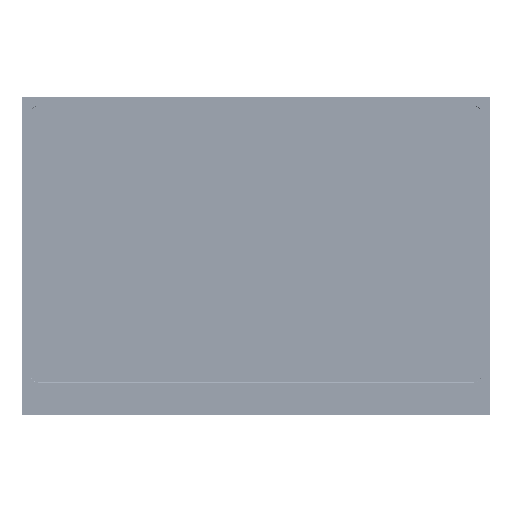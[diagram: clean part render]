
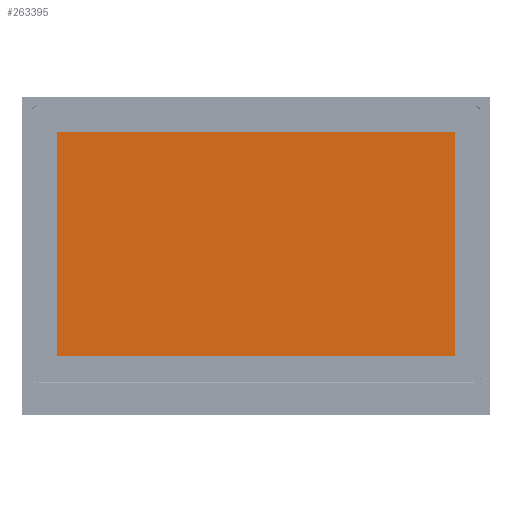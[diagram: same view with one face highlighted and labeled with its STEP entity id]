
A CAD part, top view. The second image highlights one B-rep face of the part: STEP entity #263395.
In plain terms, the highlighted planar face has unit normal (0, 0, 1).
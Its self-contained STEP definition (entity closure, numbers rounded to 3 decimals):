
#24650=FACE_OUTER_BOUND('',#38771,.T.);
#38771=EDGE_LOOP('',(#210814,#210815,#210816,#210817));
#62760=LINE('',#430403,#90293);
#62764=LINE('',#430411,#90297);
#62767=LINE('',#430417,#90300);
#62770=LINE('',#430422,#90303);
#90293=VECTOR('',#330319,10.);
#90297=VECTOR('',#330325,10.);
#90300=VECTOR('',#330330,10.);
#90303=VECTOR('',#330335,10.);
#114659=VERTEX_POINT('',#430401);
#114660=VERTEX_POINT('',#430402);
#114663=VERTEX_POINT('',#430410);
#114665=VERTEX_POINT('',#430416);
#148046=EDGE_CURVE('',#114659,#114660,#62760,.T.);
#148050=EDGE_CURVE('',#114660,#114663,#62764,.T.);
#148053=EDGE_CURVE('',#114663,#114665,#62767,.T.);
#148056=EDGE_CURVE('',#114665,#114659,#62770,.T.);
#210814=ORIENTED_EDGE('',*,*,#148046,.T.);
#210815=ORIENTED_EDGE('',*,*,#148050,.T.);
#210816=ORIENTED_EDGE('',*,*,#148053,.T.);
#210817=ORIENTED_EDGE('',*,*,#148056,.T.);
#239857=PLANE('',#279577);
#263395=ADVANCED_FACE('',(#24650),#239857,.T.);
#279577=AXIS2_PLACEMENT_3D('',#430424,#330337,#330338);
#330319=DIRECTION('',(0.,-1.,0.));
#330325=DIRECTION('',(1.,0.,0.));
#330330=DIRECTION('',(0.,1.,0.));
#330335=DIRECTION('',(-1.,0.,0.));
#330337=DIRECTION('center_axis',(0.,0.,
1.));
#330338=DIRECTION('ref_axis',(1.,0.,0.));
#430401=CARTESIAN_POINT('',(-238.4,148.25,6.19));
#430402=CARTESIAN_POINT('',(-238.4,-120.05,6.19));
#430403=CARTESIAN_POINT('',(-238.4,-120.05,6.19));
#430410=CARTESIAN_POINT('',(238.4,-120.05,6.19));
#430411=CARTESIAN_POINT('',(238.4,-120.05,6.19));
#430416=CARTESIAN_POINT('',(238.4,148.25,6.19));
#430417=CARTESIAN_POINT('',(238.4,148.25,6.19));
#430422=CARTESIAN_POINT('',(-238.4,148.25,6.19));
#430424=CARTESIAN_POINT('Origin',(0.,14.1,
6.19));
